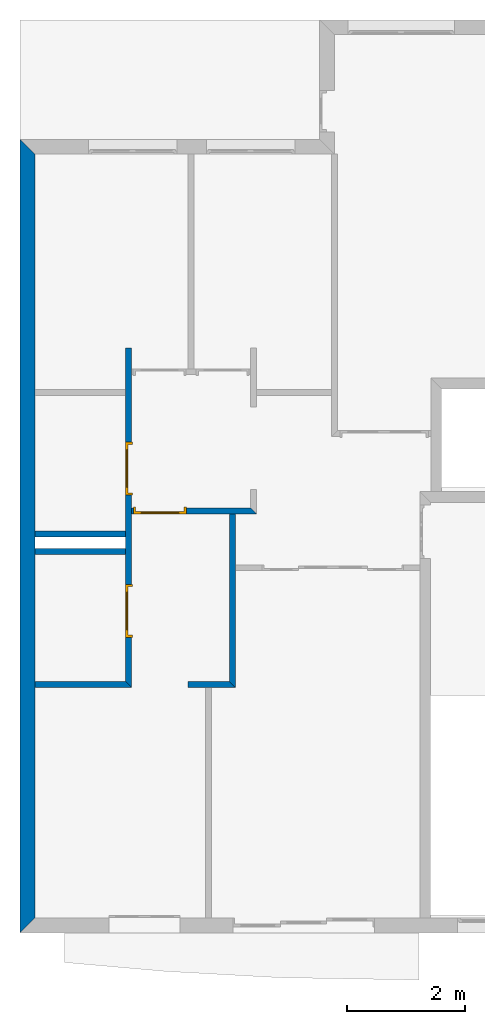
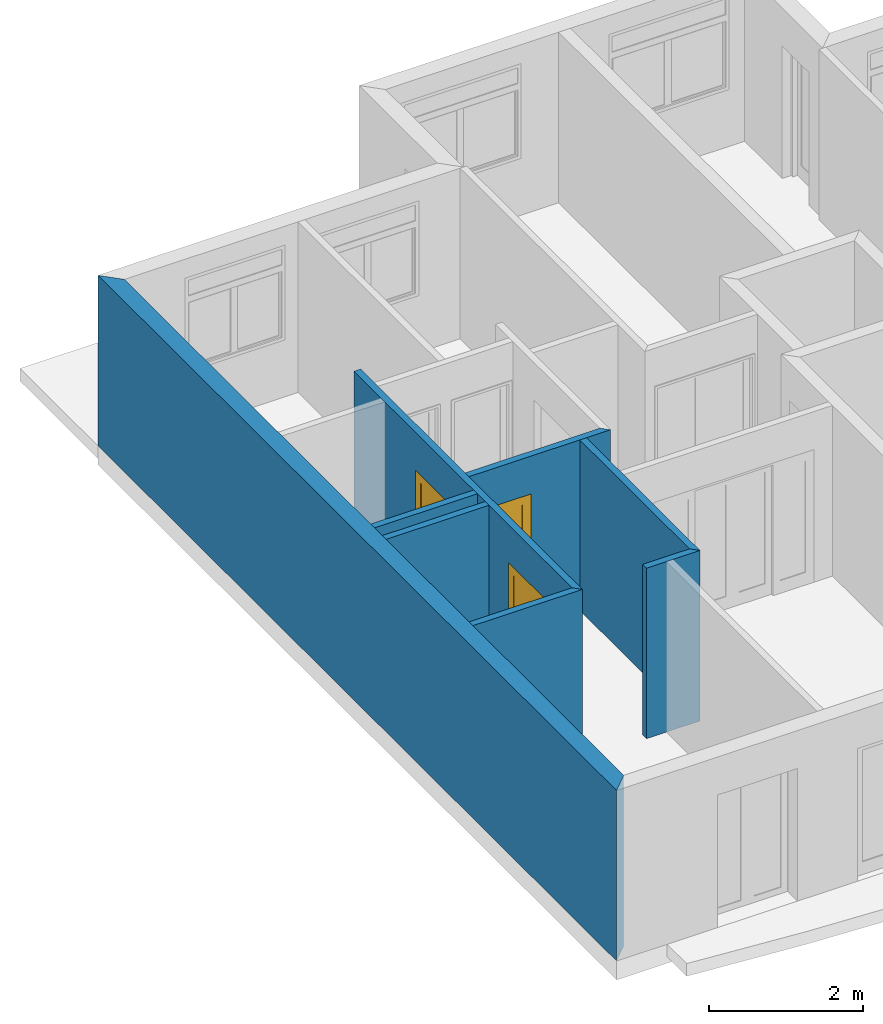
# One storey, part 4 of 13: 8 walls, 3 doors, 3 openings.
"""IFC2X3 building model written with IfcOpenShell, lengths in metres."""

from ifc_helpers import new_model, entity, si_unit, converted_unit, direction, frame, frame_2d, origin_with_axes, place, context, project, spatial, polyline, rectangle, outline, extrude, faceted_brep, source, transform, mapped, material, layer, layer_set, layer_usage, type_object, element, fill, save


model = new_model("IFC2X3")

# Units and contexts
context_of_model = context(None, 3, precision=1e-05, world=origin_with_axes(), true_north=direction((6.123234e-17, 1.0)))
plan_context = context("Plan", 3, precision=1e-05, world=origin_with_axes(), true_north=direction((6.123234e-17, 1.0)))
model_context = context("Model", 3, precision=1e-05, world=origin_with_axes(), true_north=direction((6.123234e-17, 1.0)))
ifc_project = project(units=[si_unit("LENGTHUNIT", "METRE"), si_unit("AREAUNIT", "SQUARE_METRE"), si_unit("VOLUMEUNIT", "CUBIC_METRE"), converted_unit("PLANEANGLEUNIT", "DEGREE", entity("IfcPlaneAngleMeasure", 0.017453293), si_unit("PLANEANGLEUNIT", "RADIAN"), dimensions=[0, 0, 0, 0, 0, 0, 0]), si_unit("SOLIDANGLEUNIT", "STERADIAN"), si_unit("MASSUNIT", "GRAM"), si_unit("TIMEUNIT", "SECOND"), si_unit("THERMODYNAMICTEMPERATUREUNIT", "DEGREE_CELSIUS"), si_unit("LUMINOUSINTENSITYUNIT", "LUMEN")], contexts=[context_of_model, plan_context, model_context])

# Site, building, storey
site_placement = place(None, origin_with_axes())
site = spatial("IfcSite", under=ifc_project, at=site_placement, Name="Por defecto Sitio", CompositionType="ELEMENT")
building_placement = place(site_placement, origin_with_axes())
building = spatial("IfcBuilding", under=site, at=building_placement, Name="Por defecto Edificio", CompositionType="ELEMENT")
storey_placement = place(building_placement, frame((0.0, 0.0, 7.2), z_axis=(0.0, 0.0, 1.0), x_axis=(1.0, 0.0, 0.0)))
storey = spatial("IfcBuildingStorey", under=building, at=storey_placement, Name="Segunda", CompositionType="ELEMENT", Elevation=7.2)

# Walls
ifc_material_1 = material(Name="Doble 1:4")
ifc_layer_1 = layer(ifc_material_1, 0.25, ventilated="UNKNOWN")
ifc_layer_set_1 = layer_set([ifc_layer_1], Name="Doble 1:4")
ifc_layer_usage_1 = layer_usage(ifc_layer_set_1, "AXIS2", "NEGATIVE", 0.0)
wall_type_1 = type_object("IfcWallType", Name="Doble 1:4", PredefinedType="NOTDEFINED")
wall_1_placement = place(storey_placement, frame((0.0, 0.0, 0.0), z_axis=(0.0, 0.0, 1.0), x_axis=(0.0, 1.0, 0.0)))
element("IfcWallStandardCase", 1, at=wall_1_placement, inside=storey, type_object=wall_type_1, material=ifc_layer_usage_1, Name="Muro-011", context=context_of_model, shape_type="SweptSolid", body=[
    extrude(outline(polyline([(0.25, -0.25), (13.199173, -0.25), (13.449173, 0.0), (0.0, 0.0), (0.25, -0.25)])), origin_with_axes(), (0.0, 0.0, 1.0), 2.7),
])
ifc_material_2 = material(Name="Ladrillo común")
ifc_layer_2 = layer(ifc_material_2, 0.1, ventilated="UNKNOWN")
ifc_layer_set_2 = layer_set([ifc_layer_2], Name="Ladrillo común")
ifc_layer_usage_2 = layer_usage(ifc_layer_set_2, "AXIS2", "POSITIVE", 0.0)
wall_type_2 = type_object("IfcWallType", Name="Ladrillo común", PredefinedType="NOTDEFINED")
wall_2_placement = place(storey_placement, frame((0.0, 4.1588613, 0.0), z_axis=(0.0, 0.0, 1.0), x_axis=(1.0, 0.0, 0.0)))
element("IfcWallStandardCase", 2, at=wall_2_placement, inside=storey, type_object=wall_type_2, material=ifc_layer_usage_2, Name="Muro-020", context=context_of_model, shape_type="SweptSolid", body=[
    extrude(outline(polyline([(0.25, 0.0), (1.8901652, 0.0), (1.7901652, 0.1), (0.25, 0.1), (0.25, 0.0)])), origin_with_axes(), (0.0, 0.0, 1.0), 2.7),
])
ifc_layer_usage_3 = layer_usage(ifc_layer_set_2, "AXIS2", "POSITIVE", 0.0)
wall_3_placement = place(storey_placement, frame((1.8901652, 6.8112172, 0.0), z_axis=(0.0, 0.0, 1.0), x_axis=(-1.0, 0.0, 0.0)))
element("IfcWallStandardCase", 3, at=wall_3_placement, inside=storey, type_object=wall_type_2, material=ifc_layer_usage_3, Name="Muro-035", context=context_of_model, shape_type="SweptSolid", body=[
    extrude(outline(polyline([(0.1, 0.0), (1.6401652, 0.0), (1.6401652, 0.1), (0.1, 0.1), (0.1, 0.0)])), origin_with_axes(), (0.0, 0.0, 1.0), 2.7),
])
ifc_layer_usage_4 = layer_usage(ifc_layer_set_2, "AXIS2", "NEGATIVE", 0.0)
wall_4_placement = place(storey_placement, frame((1.8901652, 6.4112172, 0.0), z_axis=(0.0, 0.0, 1.0), x_axis=(-1.0, 0.0, 0.0)))
element("IfcWallStandardCase", 4, at=wall_4_placement, inside=storey, type_object=wall_type_2, material=ifc_layer_usage_4, Name="Muro-036", context=context_of_model, shape_type="SweptSolid", body=[
    extrude(outline(polyline([(0.1, -0.1), (1.6401652, -0.1), (1.6401652, 0.0), (0.1, 0.0), (0.1, -0.1)])), origin_with_axes(), (0.0, 0.0, 1.0), 2.7),
])
ifc_layer_usage_5 = layer_usage(ifc_layer_set_2, "AXIS2", "NEGATIVE", 0.0)
wall_5_placement = place(storey_placement, frame((3.6501652, 4.1588613, 0.0), z_axis=(0.0, 0.0, 1.0), x_axis=(-1.0, 0.0, 0.0)))
element("IfcWallStandardCase", 5, at=wall_5_placement, inside=storey, type_object=wall_type_2, material=ifc_layer_usage_5, Name="Muro-020", context=context_of_model, shape_type="SweptSolid", body=[
    extrude(outline(polyline([(0.1, -0.1), (0.8, -0.1), (0.8, 0.0), (0.0, 0.0), (0.1, -0.1)])), origin_with_axes(), (0.0, 0.0, 1.0), 2.7),
])

# Wall, openings, doors
ifc_layer_usage_6 = layer_usage(ifc_layer_set_2, "AXIS2", "NEGATIVE", 0.0)
wall_6_placement = place(storey_placement, frame((1.8901652, 9.9109196, 0.0), z_axis=(0.0, 0.0, 1.0), x_axis=(0.0, -1.0, 0.0)))
wall_6 = element("IfcWallStandardCase", 6, at=wall_6_placement, inside=storey, type_object=wall_type_2, material=ifc_layer_usage_6, Name="Muro-034", context=context_of_model, shape_type="SweptSolid", body=[
    extrude(outline(polyline([(0.0, -0.1), (5.6520584, -0.1), (5.7520584, 0.0), (0.0, 0.0), (0.0, -0.1)])), origin_with_axes(), (0.0, 0.0, 1.0), 2.7),
])
opening_1_placement = place(wall_6_placement, frame((4.45317, -0.1, 0.0), z_axis=(0.0, 0.0, 1.0), x_axis=(1.0, 0.0, 0.0)))
opening_1 = element("IfcOpeningElement", 7, at=opening_1_placement, cuts=wall_6, ObjectType="Opening", context=model_context, shape_type="SweptSolid", body=[
    extrude(rectangle(XDim=0.9, YDim=2.1, at=frame_2d((0.0, 1.05), x_axis=(-1.0, 0.0))), frame((0.0, 0.0, 0.0), z_axis=(0.0, 1.0, 0.0), x_axis=(-1.0, 0.0, 0.0)), (0.0, 0.0, 1.0), 0.1),
])
opening_2_placement = place(wall_6_placement, frame((2.0425457, -0.1, 0.0), z_axis=(0.0, 0.0, 1.0), x_axis=(1.0, 0.0, 0.0)))
opening_2 = element("IfcOpeningElement", 8, at=opening_2_placement, cuts=wall_6, ObjectType="Opening", context=model_context, shape_type="SweptSolid", body=[
    extrude(rectangle(XDim=0.9, YDim=2.1, at=frame_2d((0.0, 1.05), x_axis=(-1.0, 0.0))), frame((0.0, 0.0, 0.0), z_axis=(0.0, 1.0, 0.0), x_axis=(-1.0, 0.0, 0.0)), (0.0, 0.0, 1.0), 0.1),
])
door_style_1 = type_object("IfcDoorStyle", Name="P1 12", ConstructionType="NOTDEFINED", OperationType="SINGLE_SWING_RIGHT", ParameterTakesPrecedence=False, Sizeable=False)
shared_shape_1 = source(origin_with_axes(), model_context, "Body", "Brep", [
    faceted_brep([(0.04, 0.075, -2.4492936e-18), (0.04, 0.075, 2.06), (0.04, -9.3258734e-14, 2.06), (0.04, -9.3258734e-14, -7.0417191e-18), (0.028, 0.075, 2.06), (0.028, 0.075, -2.4492936e-18), (0.028, 0.115, 2.06), (2.220446e-16, 0.115, 2.06), (1.7763568e-15, -9.4146912e-14, 2.06), (0.0, 0.0, 0.0), (2.220446e-16, 0.115, 3.3744595e-33), (0.028, 0.115, 3.2707143e-33)], [[[0, 1, 2, 3]], [[4, 1, 0, 5]], [[4, 6, 7, 8, 2, 1]], [[9, 3, 2, 8]], [[5, 0, 3, 9, 10, 11]], [[6, 4, 5, 11]], [[6, 11, 10, 7]], [[8, 7, 10, 9]]]),
    faceted_brep([(0.872, 0.075, 2.06), (0.86, 0.075, 2.06), (0.86, -8.0824236e-14, 2.06), (0.9, -7.9936058e-14, 2.06), (0.9, 0.115, 2.06), (0.872, 0.115, 2.06), (0.872, 0.075, -2.4492936e-18), (0.86, 0.075, -2.4492936e-18), (0.86, -8.0824236e-14, -7.0417191e-18), (0.9, -7.9936058e-14, -7.0417191e-18), (0.9, 0.115, -3.3744595e-33), (0.872, 0.115, -3.1644931e-33)], [[[0, 1, 2, 3, 4, 5]], [[1, 0, 6, 7]], [[1, 7, 8, 2]], [[8, 9, 3, 2]], [[9, 10, 4, 3]], [[11, 5, 4, 10]], [[0, 5, 11, 6]], [[6, 11, 10, 9, 8, 7]]]),
    faceted_brep([(0.028, 0.115, 2.072), (0.028, 0.115, 2.06), (2.220446e-16, 0.115, 2.06), (2.220446e-16, 0.115, 2.1), (0.9, 0.115, 2.1), (0.9, 0.115, 2.06), (0.872, 0.115, 2.06), (0.872, 0.115, 2.072), (0.028, 0.075, 2.072), (0.028, 0.075, 2.06), (0.04, 0.075, 2.06), (0.04, -9.3258734e-14, 2.06), (1.7763568e-15, -9.4146912e-14, 2.06), (1.7763568e-15, -9.4146912e-14, 2.1), (0.9, -7.9936058e-14, 2.1), (0.9, -7.9936058e-14, 2.06), (0.872, 0.075, 2.06), (0.86, -8.0824236e-14, 2.06), (0.86, 0.075, 2.06), (0.872, 0.075, 2.072)], [[[0, 1, 2, 3, 4, 5, 6, 7]], [[1, 0, 8, 9]], [[9, 10, 11, 12, 2, 1]], [[13, 3, 2, 12]], [[14, 4, 3, 13]], [[15, 5, 4, 14]], [[16, 6, 5, 15, 17, 18]], [[7, 6, 16, 19]], [[0, 7, 19, 8]], [[16, 18, 10, 9, 8, 19]], [[10, 18, 17, 11]], [[14, 13, 12, 11, 17, 15]]]),
    faceted_brep([(0.872, 0.115, 0.2), (0.872, 0.075, 0.2), (0.772, 0.075, 0.2), (0.772, 0.115, 0.2), (0.872, 0.115, 1.972), (0.872, 0.075, 1.972), (0.772, 0.075, 1.972), (0.772, 0.115, 1.972)], [[[0, 1, 2, 3]], [[4, 5, 1, 0]], [[1, 5, 6, 2]], [[3, 2, 6, 7]], [[0, 3, 7, 4]], [[7, 6, 5, 4]]]),
    faceted_brep([(0.028, 0.115, 0.2), (0.028, 0.075, 0.2), (0.028, 0.075, 1.972), (0.028, 0.115, 1.972), (0.128, 0.115, 0.2), (0.128, 0.075, 0.2), (0.128, 0.075, 1.972), (0.128, 0.115, 1.972)], [[[0, 1, 2, 3]], [[4, 5, 1, 0]], [[1, 5, 6, 2]], [[3, 2, 6, 7]], [[0, 3, 7, 4]], [[7, 6, 5, 4]]]),
    faceted_brep([(0.872, 0.115, -3.1644931e-33), (0.872, 0.075, -2.4492936e-18), (0.028, 0.075, -2.4492936e-18), (0.028, 0.115, 3.1644931e-33), (0.872, 0.115, 0.2), (0.872, 0.075, 0.2), (0.772, 0.075, 0.2), (0.128, 0.075, 0.2), (0.028, 0.075, 0.2), (0.028, 0.115, 0.2), (0.128, 0.115, 0.2), (0.772, 0.115, 0.2)], [[[0, 1, 2, 3]], [[4, 5, 1, 0]], [[1, 5, 6, 7, 8, 2]], [[3, 2, 8, 9]], [[0, 3, 9, 10, 11, 4]], [[11, 6, 5, 4]], [[10, 7, 6, 11]], [[9, 8, 7, 10]]]),
    faceted_brep([(0.872, 0.115, 2.072), (0.872, 0.075, 2.072), (0.872, 0.075, 1.972), (0.872, 0.115, 1.972), (0.028, 0.115, 2.072), (0.028, 0.075, 2.072), (0.028, 0.075, 1.972), (0.128, 0.075, 1.972), (0.772, 0.075, 1.972), (0.772, 0.115, 1.972), (0.128, 0.115, 1.972), (0.028, 0.115, 1.972)], [[[0, 1, 2, 3]], [[4, 5, 1, 0]], [[1, 5, 6, 7, 8, 2]], [[3, 2, 8, 9]], [[0, 3, 9, 10, 11, 4]], [[11, 6, 5, 4]], [[10, 7, 6, 11]], [[9, 8, 7, 10]]]),
    faceted_brep([(0.772, 0.101, 0.2), (0.772, 0.089, 0.2), (0.128, 0.089, 0.2), (0.128, 0.101, 0.2), (0.772, 0.101, 1.972), (0.772, 0.089, 1.972), (0.128, 0.089, 1.972), (0.128, 0.101, 1.972)], [[[0, 1, 2, 3]], [[4, 5, 1, 0]], [[1, 5, 6, 2]], [[3, 2, 6, 7]], [[0, 3, 7, 4]], [[7, 6, 5, 4]]]),
])
door_1_placement = place(opening_2_placement, frame((0.45, 0.115, 0.0), z_axis=(0.0, 0.0, 1.0), x_axis=(-1.0, 0.0, 0.0)))
door_1 = element("IfcDoor", 9, at=door_1_placement, inside=storey, type_object=door_style_1, Name="P19", OverallHeight=2.1, OverallWidth=0.9, context=model_context, shape_type="MappedRepresentation", body=[
    mapped(shared_shape_1, transform((0.0, 0.0, 0.0), scale=1.0)),
])
fill(opening_2, door_1)
door_style_2 = type_object("IfcDoorStyle", Name="P1 12", ConstructionType="NOTDEFINED", OperationType="SINGLE_SWING_LEFT", ParameterTakesPrecedence=False, Sizeable=False)
shared_shape_2 = source(origin_with_axes(), model_context, "Body", "Brep", [
    faceted_brep([(0.86, 0.075, -3.6739404e-18), (0.86, 0.0, 9.184851e-19), (0.86, 0.0, 2.06), (0.86, 0.075, 2.06), (0.872, 0.075, -3.6739404e-18), (0.872, 0.115, -6.123234e-18), (0.9, 0.115, -6.123234e-18), (0.9, 0.0, 9.184851e-19), (0.9, 0.0, 2.06), (0.872, 0.075, 2.06), (0.9, 0.115, 2.06), (0.872, 0.115, 2.06)], [[[0, 1, 2, 3]], [[4, 5, 6, 7, 1, 0]], [[7, 8, 2, 1]], [[9, 3, 2, 8, 10, 11]], [[9, 4, 0, 3]], [[11, 5, 4, 9]], [[11, 10, 6, 5]], [[8, 7, 6, 10]]]),
    faceted_brep([(0.028, 0.075, 2.06), (0.028, 0.115, 2.06), (0.0, 0.115, 2.06), (0.0, 0.0, 2.06), (0.04, 0.0, 2.06), (0.04, 0.075, 2.06), (0.028, 0.075, -3.6739404e-18), (0.028, 0.115, -6.123234e-18), (0.0, 0.115, -6.123234e-18), (0.0, 0.0, 0.0), (0.04, 0.0, 9.184851e-19), (0.04, 0.075, -3.6739404e-18)], [[[0, 1, 2, 3, 4, 5]], [[0, 6, 7, 1]], [[7, 8, 2, 1]], [[9, 3, 2, 8]], [[10, 4, 3, 9]], [[5, 4, 10, 11]], [[5, 11, 6, 0]], [[6, 11, 10, 9, 8, 7]]]),
    faceted_brep([(0.872, 0.115, 2.072), (0.028, 0.115, 2.072), (0.028, 0.115, 2.06), (0.0, 0.115, 2.06), (0.0, 0.115, 2.1), (0.9, 0.115, 2.1), (0.9, 0.115, 2.06), (0.872, 0.115, 2.06), (0.872, 0.075, 2.072), (0.028, 0.075, 2.072), (0.028, 0.075, 2.06), (0.04, 0.075, 2.06), (0.04, 0.0, 2.06), (0.0, 0.0, 2.06), (0.0, 0.0, 2.1), (0.9, 0.0, 2.1), (0.9, 0.0, 2.06), (0.872, 0.075, 2.06), (0.86, 0.0, 2.06), (0.86, 0.075, 2.06)], [[[0, 1, 2, 3, 4, 5, 6, 7]], [[0, 8, 9, 1]], [[1, 9, 10, 2]], [[10, 11, 12, 13, 3, 2]], [[13, 14, 4, 3]], [[14, 15, 5, 4]], [[15, 16, 6, 5]], [[17, 7, 6, 16, 18, 19]], [[7, 17, 8, 0]], [[10, 9, 8, 17, 19, 11]], [[19, 18, 12, 11]], [[14, 13, 12, 18, 16, 15]]]),
    faceted_brep([(0.028, 0.115, 0.2), (0.128, 0.115, 0.2), (0.128, 0.075, 0.2), (0.028, 0.075, 0.2), (0.028, 0.115, 1.972), (0.128, 0.115, 1.972), (0.128, 0.075, 1.972), (0.028, 0.075, 1.972)], [[[0, 1, 2, 3]], [[0, 4, 5, 1]], [[1, 5, 6, 2]], [[3, 2, 6, 7]], [[4, 0, 3, 7]], [[5, 4, 7, 6]]]),
    faceted_brep([(0.872, 0.115, 0.2), (0.872, 0.115, 1.972), (0.872, 0.075, 1.972), (0.872, 0.075, 0.2), (0.772, 0.115, 0.2), (0.772, 0.115, 1.972), (0.772, 0.075, 1.972), (0.772, 0.075, 0.2)], [[[0, 1, 2, 3]], [[0, 4, 5, 1]], [[1, 5, 6, 2]], [[3, 2, 6, 7]], [[4, 0, 3, 7]], [[5, 4, 7, 6]]]),
    faceted_brep([(0.028, 0.115, -6.123234e-18), (0.872, 0.115, -6.123234e-18), (0.872, 0.075, -3.6739404e-18), (0.028, 0.075, -3.6739404e-18), (0.028, 0.115, 0.2), (0.128, 0.115, 0.2), (0.772, 0.115, 0.2), (0.872, 0.115, 0.2), (0.872, 0.075, 0.2), (0.772, 0.075, 0.2), (0.128, 0.075, 0.2), (0.028, 0.075, 0.2)], [[[0, 1, 2, 3]], [[0, 4, 5, 6, 7, 1]], [[1, 7, 8, 2]], [[3, 2, 8, 9, 10, 11]], [[4, 0, 3, 11]], [[5, 4, 11, 10]], [[6, 5, 10, 9]], [[7, 6, 9, 8]]]),
    faceted_brep([(0.028, 0.115, 2.072), (0.028, 0.115, 1.972), (0.028, 0.075, 1.972), (0.028, 0.075, 2.072), (0.872, 0.115, 2.072), (0.872, 0.115, 1.972), (0.772, 0.115, 1.972), (0.128, 0.115, 1.972), (0.128, 0.075, 1.972), (0.772, 0.075, 1.972), (0.872, 0.075, 1.972), (0.872, 0.075, 2.072)], [[[0, 1, 2, 3]], [[0, 4, 5, 6, 7, 1]], [[1, 7, 8, 2]], [[3, 2, 8, 9, 10, 11]], [[4, 0, 3, 11]], [[5, 4, 11, 10]], [[6, 5, 10, 9]], [[7, 6, 9, 8]]]),
    faceted_brep([(0.128, 0.101, 0.2), (0.772, 0.101, 0.2), (0.772, 0.089, 0.2), (0.128, 0.089, 0.2), (0.128, 0.101, 1.972), (0.772, 0.101, 1.972), (0.772, 0.089, 1.972), (0.128, 0.089, 1.972)], [[[0, 1, 2, 3]], [[0, 4, 5, 1]], [[1, 5, 6, 2]], [[3, 2, 6, 7]], [[4, 0, 3, 7]], [[5, 4, 7, 6]]]),
])
door_2_placement = place(opening_1_placement, frame((0.45, 0.115, 0.0), z_axis=(0.0, 0.0, 1.0), x_axis=(-1.0, 0.0, 0.0)))
door_2 = element("IfcDoor", 10, at=door_2_placement, inside=storey, type_object=door_style_2, Name="P18", OverallHeight=2.1, OverallWidth=0.9, context=model_context, shape_type="MappedRepresentation", body=[
    mapped(shared_shape_2, transform((0.0, 0.0, 0.0), scale=1.0)),
])
fill(opening_1, door_2)

# Wall
ifc_layer_usage_7 = layer_usage(ifc_layer_set_2, "AXIS2", "POSITIVE", 0.0)
wall_7_placement = place(storey_placement, frame((3.6501652, 4.1588613, 0.0), z_axis=(0.0, 0.0, 1.0), x_axis=(0.0, 1.0, 0.0)))
element("IfcWallStandardCase", 11, at=wall_7_placement, inside=storey, type_object=wall_type_2, material=ifc_layer_usage_7, Name="Muro-021", context=context_of_model, shape_type="SweptSolid", body=[
    extrude(outline(polyline([(0.0, 0.0), (2.9433401, 0.0), (2.9433401, 0.1), (0.1, 0.1), (0.0, 0.0)])), origin_with_axes(), (0.0, 0.0, 1.0), 2.7),
])

# Wall, opening, door
ifc_layer_usage_8 = layer_usage(ifc_layer_set_2, "AXIS2", "NEGATIVE", 0.0)
wall_8_placement = place(storey_placement, frame((1.8901652, 7.2022014, 0.0), z_axis=(0.0, 0.0, 1.0), x_axis=(1.0, 0.0, 0.0)))
wall_8 = element("IfcWallStandardCase", 12, at=wall_8_placement, inside=storey, type_object=wall_type_2, material=ifc_layer_usage_8, Name="Muro-024", context=context_of_model, shape_type="SweptSolid", body=[
    extrude(outline(polyline([(0.0, -0.1), (2.12, -0.1), (2.02, 0.0), (0.0, 0.0), (0.0, -0.1)])), origin_with_axes(), (0.0, 0.0, 1.0), 2.7),
])
opening_3_placement = place(wall_8_placement, frame((0.48089372, -0.1, 0.0), z_axis=(0.0, 0.0, 1.0), x_axis=(1.0, 0.0, 0.0)))
opening_3 = element("IfcOpeningElement", 13, at=opening_3_placement, cuts=wall_8, ObjectType="Opening", context=model_context, shape_type="SweptSolid", body=[
    extrude(rectangle(XDim=0.9, YDim=2.1, at=frame_2d((-1.110223e-16, 1.05), x_axis=(-1.0, 0.0))), frame((0.0, 0.0, 0.0), z_axis=(0.0, 1.0, 0.0), x_axis=(-1.0, 0.0, 0.0)), (0.0, 0.0, 1.0), 0.1),
])
door_style_3 = type_object("IfcDoorStyle", Name="P1 12", ConstructionType="NOTDEFINED", OperationType="SINGLE_SWING_LEFT", ParameterTakesPrecedence=False, Sizeable=False)
door_3_placement = place(opening_3_placement, frame((0.45, 0.115, 0.0), z_axis=(0.0, 0.0, 1.0), x_axis=(-1.0, 0.0, 0.0)))
door_3 = element("IfcDoor", 14, at=door_3_placement, inside=storey, type_object=door_style_3, Name="P17", OverallHeight=2.1, OverallWidth=0.9, context=model_context, shape_type="MappedRepresentation", body=[
    mapped(shared_shape_2, transform((0.0, 0.0, 0.0), scale=1.0)),
])
fill(opening_3, door_3)

save(model, "model.ifc")
